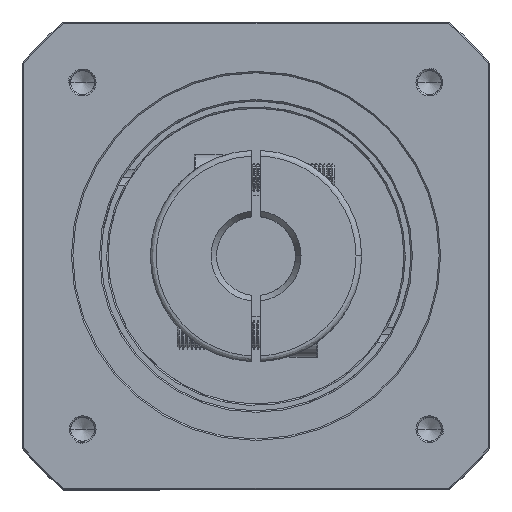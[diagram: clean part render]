
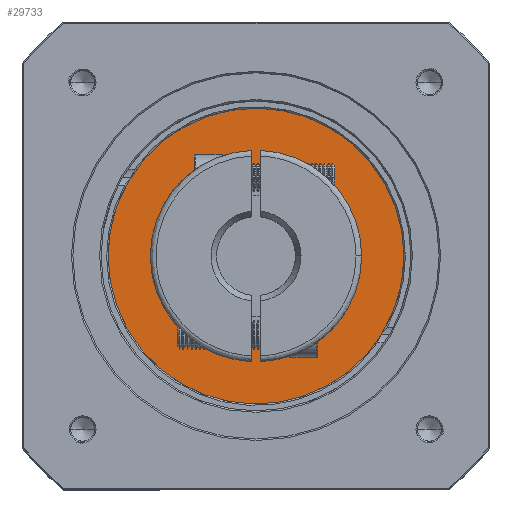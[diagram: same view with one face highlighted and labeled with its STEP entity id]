
A CAD part, top view. The second image highlights one B-rep face of the part: STEP entity #29733.
In plain terms, the highlighted planar face has unit normal (0, 0, 1).
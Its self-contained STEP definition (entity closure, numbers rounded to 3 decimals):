
#5797 = CARTESIAN_POINT ( 'NONE',  ( -76.656, 124.929, -10.759 ) ) ;
#10485 = ORIENTED_EDGE ( 'NONE', *, *, #54655, .F. ) ;
#10856 = ORIENTED_EDGE ( 'NONE', *, *, #49349, .T. ) ;
#15819 = FACE_BOUND ( 'NONE', #128035, .T. ) ;
#16727 = AXIS2_PLACEMENT_3D ( 'NONE', #86391, #44595, #65276 ) ;
#23469 = AXIS2_PLACEMENT_3D ( 'NONE', #102494, #40934, #81365 ) ;
#23595 = PLANE ( 'NONE',  #16727 ) ;
#25742 = CARTESIAN_POINT ( 'NONE',  ( -76.656, 124.929, -10.759 ) ) ;
#27172 = CARTESIAN_POINT ( 'NONE',  ( -76.656, 94.429, -10.759 ) ) ;
#28492 = DIRECTION ( 'NONE',  ( 0., 1., 0. ) ) ;
#29733 = ADVANCED_FACE ( 'NONE', ( #15819, #60679 ), #23595, .F. ) ;
#37143 = EDGE_CURVE ( 'NONE', #44257, #94683, #43805, .T. ) ;
#38537 = VERTEX_POINT ( 'NONE', #57535 ) ;
#40934 = DIRECTION ( 'NONE',  ( 0., 0., -1. ) ) ;
#43805 = CIRCLE ( 'NONE', #23469, 52.5 ) ;
#44257 = VERTEX_POINT ( 'NONE', #77065 ) ;
#44595 = DIRECTION ( 'NONE',  ( 0., 0., -1. ) ) ;
#47005 = DIRECTION ( 'NONE',  ( -1., 0., 0. ) ) ;
#49349 = EDGE_CURVE ( 'NONE', #58091, #38537, #81253, .T. ) ;
#51607 = ORIENTED_EDGE ( 'NONE', *, *, #37143, .F. ) ;
#54655 = EDGE_CURVE ( 'NONE', #94683, #44257, #123781, .T. ) ;
#55275 = DIRECTION ( 'NONE',  ( 0., 1., 0. ) ) ;
#57535 = CARTESIAN_POINT ( 'NONE',  ( -76.656, 155.429, -10.759 ) ) ;
#58091 = VERTEX_POINT ( 'NONE', #27172 ) ;
#60105 = EDGE_LOOP ( 'NONE', ( #51607, #10485 ) ) ;
#60679 = FACE_OUTER_BOUND ( 'NONE', #60105, .T. ) ;
#65276 = DIRECTION ( 'NONE',  ( -1., 0., 0. ) ) ;
#77065 = CARTESIAN_POINT ( 'NONE',  ( -129.156, 124.929, -10.759 ) ) ;
#77310 = DIRECTION ( 'NONE',  ( 0., 0., -1. ) ) ;
#81253 = CIRCLE ( 'NONE', #94864, 30.5 ) ;
#81365 = DIRECTION ( 'NONE',  ( -1., 0., 0. ) ) ;
#84957 = ORIENTED_EDGE ( 'NONE', *, *, #132326, .T. ) ;
#86219 = CARTESIAN_POINT ( 'NONE',  ( -24.156, 124.929, -10.759 ) ) ;
#86391 = CARTESIAN_POINT ( 'NONE',  ( -76.656, 124.929, -10.759 ) ) ;
#90448 = CARTESIAN_POINT ( 'NONE',  ( -76.656, 124.929, -10.759 ) ) ;
#94683 = VERTEX_POINT ( 'NONE', #86219 ) ;
#94864 = AXIS2_PLACEMENT_3D ( 'NONE', #25742, #77310, #55275 ) ;
#97918 = AXIS2_PLACEMENT_3D ( 'NONE', #5797, #98249, #47005 ) ;
#98249 = DIRECTION ( 'NONE',  ( 0., 0., -1. ) ) ;
#102494 = CARTESIAN_POINT ( 'NONE',  ( -76.656, 124.929, -10.759 ) ) ;
#102836 = CIRCLE ( 'NONE', #120270, 30.5 ) ;
#120270 = AXIS2_PLACEMENT_3D ( 'NONE', #90448, #131334, #28492 ) ;
#123781 = CIRCLE ( 'NONE', #97918, 52.5 ) ;
#128035 = EDGE_LOOP ( 'NONE', ( #84957, #10856 ) ) ;
#131334 = DIRECTION ( 'NONE',  ( 0., 0., -1. ) ) ;
#132326 = EDGE_CURVE ( 'NONE', #38537, #58091, #102836, .T. ) ;
